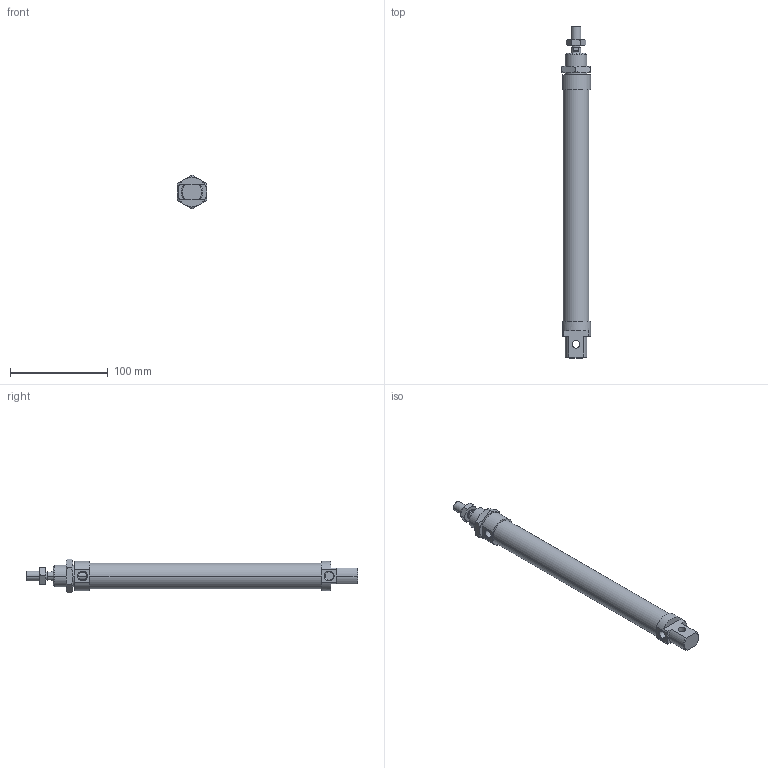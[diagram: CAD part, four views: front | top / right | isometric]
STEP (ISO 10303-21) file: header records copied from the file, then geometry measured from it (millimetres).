
FILE_DESCRIPTION((''),'2;1');
FILE_NAME('I:\DOC-EDP\Lib-3d\1200\CILINDRI\1280\1280_25_0200.stp','2003-04-07T18:00:40',('maffial1'),(''),'Autodesk Inventor (R) 6.0','Autodesk Inventor (R) 6.0','');
FILE_SCHEMA(('AUTOMOTIVE_DESIGN { 1 0 10303 214 1 1 1 1 }'));
Length unit declared in the file: millimetre
Products named in the file (5): 1280_25_0200; S1280_25_200; 1200_25_05; 1200_25_06; C1280_25_200
Assembly tree (4 placements, depth 2):
  1280_25_0200
    S1280_25_200
    1200_25_05
    1200_25_06
    C1280_25_200
Bounding box: 30 x 340 x 34.64 mm (x, y, z)
Volume: 170396.3 mm3; surface area: 46642.8 mm2
Topology: 4 solids, 4 shells, 124 faces, 281 edges, 170 vertices
Faces by surface type: plane 41, cone 40, cylinder 22, bspline 21
Entity records: 3808 total; most frequent: CARTESIAN_POINT 1031, DIRECTION 573, ORIENTED_EDGE 562, EDGE_CURVE 281, AXIS2_PLACEMENT_3D 236, VERTEX_POINT 170, EDGE_LOOP 137, FACE_OUTER_BOUND 124
